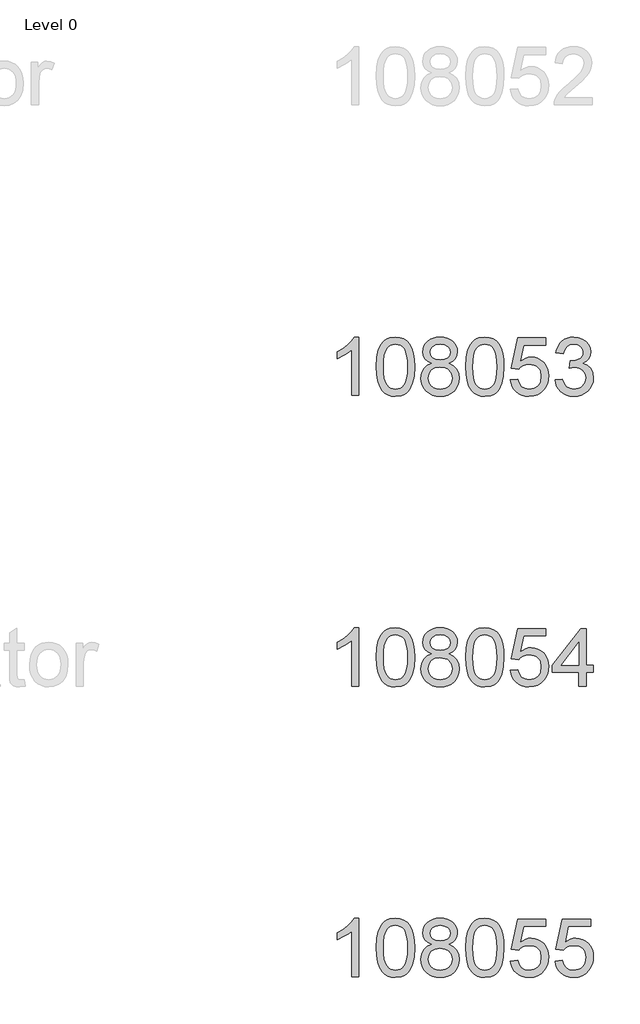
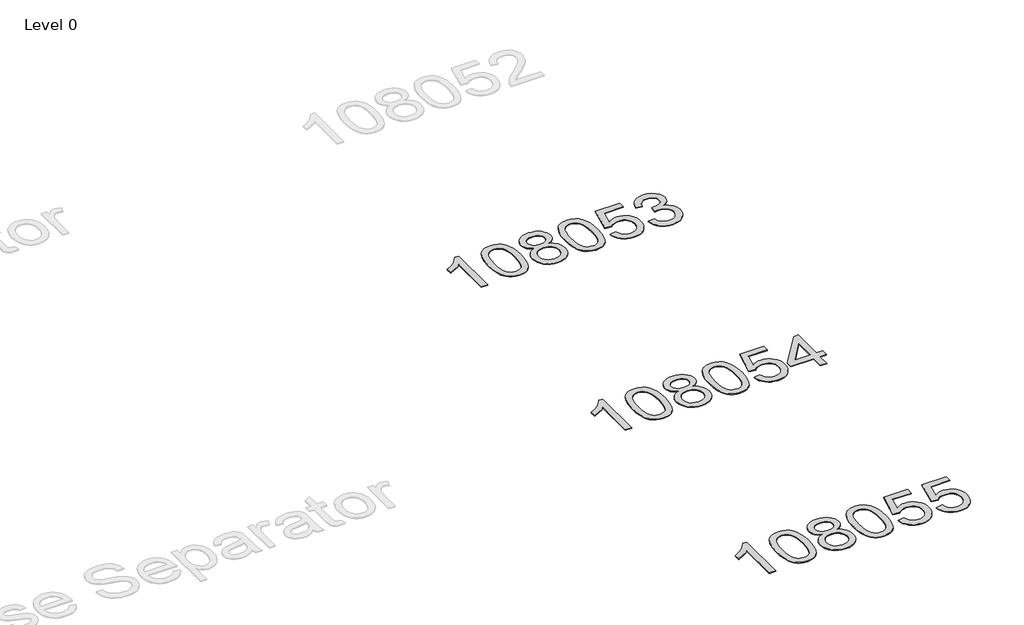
# One storey, part 3 of 15: 3 proxies.
"""IFC4 building model written with IfcOpenShell, lengths in millimetres."""

from ifc_helpers import new_model, si_unit, origin, origin_with_axes, place, context, project, spatial, polyline, outline, extrude, element, save

model = new_model("IFC4")

# Units and contexts
model_context = context("Model", 3, world=origin())
ifc_project = project(units=[si_unit("LENGTHUNIT", "METRE", prefix="MILLI")], contexts=[model_context])

# Site, building, storey
site = spatial("IfcSite", under=ifc_project)
building = spatial("IfcBuilding", under=site)
storey = spatial("IfcBuildingStorey", under=building, Name="Level 0", Elevation=0.0)

# Proxies
placement = place(None, origin())
element("IfcBuildingElementProxy", 1, Name="400mm Arial", ObjectType="400mm Arial", at=placement, inside=storey, context=model_context, shape_type="SweptSolid", body=[
    extrude(outline(polyline([(-3629.592891, 4149.0232018), (-3679.821046, 4149.0232018), (-3679.821046, 4462.1643561), (-3700.7903198, 4445.2049961), (-3727.4004508, 4428.2701616), (-3780.2773562, 4402.9108294), (-3780.2773562, 4450.3921323), (-3740.8281436, 4471.8519153), (-3706.6519062, 4497.3829258), (-3679.7106814, 4524.532617), (-3661.9665065, 4550.8484424), (-3629.592891, 4550.8484424), (-3629.592891, 4149.0232018)])), origin_with_axes(), (0.0, 0.0, 1.0), 5.0),
    extrude(outline(polyline([(-3510.3010227, 4346.6984606), (-3506.60994, 4411.0164961), (-3495.5366919, 4462.3115089), (-3477.1916431, 4501.3683141), (-3465.3335801, 4516.6016944), (-3451.6851581, 4528.9717264), (-3436.2003918, 4538.5427897), (-3418.8332959, 4545.3792634), (-3378.4521156, 4550.8484424), (-3347.5009771, 4547.6110809), (-3319.7872001, 4537.8989962), (-3296.6106344, 4522.0923331), (-3279.2711297, 4500.5712364), (-3266.1745307, 4473.519647), (-3255.726682, 4441.121506), (-3248.8840769, 4399.9800362), (-3246.6032085, 4346.6984606), (-3250.257503, 4282.7483071), (-3261.2203865, 4231.5759215), (-3279.4550707, 4192.4823282), (-3291.2855425, 4177.2029627), (-3304.9247675, 4164.7685512), (-3320.4279279, 4155.1331086), (-3337.8502061, 4148.2506496), (-3378.4521156, 4142.7446824), (-3406.1168416, 4145.1359154), (-3430.642308, 4152.3096143), (-3452.0285146, 4164.2657792), (-3470.2754616, 4181.0044099), (-3487.7866446, 4211.262704), (-3500.2946324, 4248.9644772), (-3507.7994251, 4294.1097294), (-3510.3010227, 4346.6984606)]), holes=[polyline([(-3460.0728676, 4346.7965624), (-3458.6013396, 4303.1320353), (-3454.1867557, 4267.7877726), (-3446.8291158, 4240.7637744), (-3436.5284199, 4222.0600406), (-3424.069483, 4209.3343892), (-3410.23712, 4200.2446383), (-3395.0313308, 4194.7907877), (-3378.4521156, 4192.9728375), (-3361.8729003, 4194.7969191), (-3346.6671112, 4200.2691637), (-3332.8347482, 4209.3895715), (-3320.3758113, 4222.1581425), (-3310.0751154, 4240.8925331), (-3302.7174755, 4267.9103999), (-3298.3028916, 4303.2117431), (-3296.8313636, 4346.7965624), (-3298.2538406, 4389.305327), (-3302.5212718, 4424.0272559), (-3309.633657, 4450.9623494), (-3319.5909964, 4470.1106072), (-3331.8414668, 4483.4585923), (-3345.8332454, 4492.9928673), (-3361.566332, 4498.7134323), (-3379.0407268, 4500.6202873), (-3395.5341029, 4498.9402929), (-3410.4823746, 4493.9003096), (-3423.885542, 4485.5003373), (-3435.743605, 4473.7403762), (-3446.3876574, 4452.8937298), (-3453.9905519, 4424.7875454), (-3458.5522887, 4389.4218229), (-3460.0728676, 4346.7965624)])]), origin_with_axes(), (0.0, 0.0, 1.0), 5.0),
    extrude(outline(polyline([(-3129.4695813, 4370.3410101), (-3156.3617551, 4383.5847619), (-3175.2341015, 4401.5374033), (-3186.3809259, 4423.8310522), (-3190.0965341, 4450.0978267), (-3188.0731831, 4470.5827224), (-3182.0031302, 4489.3630983), (-3171.8863753, 4506.4389542), (-3157.7229185, 4521.8102903), (-3140.1933414, 4534.5144818), (-3119.9782258, 4543.5889044), (-3097.0775716, 4549.0335579), (-3071.4913788, 4550.8484424), (-3045.7825587, 4548.9906383), (-3022.7102263, 4543.4172261), (-3002.2743814, 4534.1282057), (-2984.4750242, 4521.1235772), (-2970.05405, 4505.4518042), (-2959.7533542, 4488.1613504), (-2953.5729366, 4469.2522159), (-2951.5127975, 4448.7244006), (-2955.1793547, 4423.3037547), (-2966.1790263, 4401.3902505), (-2984.6344398, 4383.5479737), (-3010.6682223, 4370.3410101), (-2979.753872, 4354.4117197), (-2957.2517566, 4330.9531112), (-2943.5297582, 4301.0933559), (-2938.9557587, 4265.9606254), (-2941.2243643, 4240.9078615), (-2948.0301812, 4217.9397623), (-2959.3732094, 4197.0563277), (-2975.2534489, 4178.2575577), (-2994.8370338, 4162.7206748), (-3017.2900982, 4151.6229013), (-3042.6126422, 4144.9642371), (-3070.8046658, 4142.7446824), (-3098.9966893, 4144.9734342), (-3124.3192333, 4151.6596895), (-3146.7722978, 4162.8034482), (-3166.3558826, 4178.4047105), (-3182.2361221, 4197.3353048), (-3193.5791503, 4218.4670598), (-3200.3849672, 4241.7999753), (-3202.6535728, 4267.3340515), (-3197.8956324, 4303.8279454), (-3183.621811, 4333.8471162), (-3160.5678726, 4356.3614943), (-3129.4695813, 4370.3410101)]), holes=[polyline([(-3139.868379, 4448.6262987), (-3135.4170068, 4426.7005318), (-3122.0628904, 4409.1893488), (-3100.1984372, 4397.7114306), (-3070.2160546, 4393.8854578), (-3040.9326478, 4397.6869051), (-3019.3992883, 4409.0912469), (-3006.1555365, 4426.0138187), (-3001.7409525, 4446.3699558), (-3006.3026893, 4467.498645), (-3019.9878995, 4484.9730398), (-3041.8155645, 4496.7084755), (-3070.8046658, 4500.6202873), (-3099.977708, 4496.7943146), (-3121.7685848, 4485.3163963), (-3135.3434305, 4468.4919264), (-3139.868379, 4448.6262987)]), polyline([(-3152.4254178, 4269.099885), (-3150.3284904, 4249.8841822), (-3144.0377083, 4231.2816159), (-3132.4249, 4215.05802), (-3114.361894, 4202.9792278), (-3092.7304327, 4195.4744351), (-3070.4122583, 4192.9728375), (-3036.2237582, 4198.23355), (-3022.3300815, 4204.8094407), (-3010.5701204, 4214.0156876), (-2994.5304654, 4237.9157546), (-2989.1839138, 4267.5302552), (-2994.7021437, 4297.6475279), (-3011.2568335, 4322.0748924), (-3023.3356257, 4331.5171969), (-3037.4990825, 4338.2617001), (-3072.07999, 4343.6573027), (-3105.7902435, 4338.3352765), (-3119.5275703, 4331.6827438), (-3131.1863639, 4322.3691979), (-3147.1156543, 4298.4078173), (-3152.4254178, 4269.099885)])]), origin_with_axes(), (0.0, 0.0, 1.0), 5.0),
    extrude(outline(polyline([(-2895.006123, 4346.6984606), (-2891.3150403, 4411.0164961), (-2880.2417923, 4462.3115089), (-2861.8967434, 4501.3683141), (-2850.0386805, 4516.6016944), (-2836.3902584, 4528.9717264), (-2820.9054921, 4538.5427897), (-2803.5383963, 4545.3792634), (-2763.1572159, 4550.8484424), (-2732.2060774, 4547.6110809), (-2704.4923004, 4537.8989962), (-2681.3157347, 4522.0923331), (-2663.97623, 4500.5712364), (-2650.879631, 4473.519647), (-2640.4317823, 4441.121506), (-2633.5891772, 4399.9800362), (-2631.3083089, 4346.6984606), (-2634.9626033, 4282.7483071), (-2645.9254868, 4231.5759215), (-2664.160171, 4192.4823282), (-2675.9906429, 4177.2029627), (-2689.6298678, 4164.7685512), (-2705.1330282, 4155.1331086), (-2722.5553064, 4148.2506496), (-2763.1572159, 4142.7446824), (-2790.821942, 4145.1359154), (-2815.3474083, 4152.3096143), (-2836.733615, 4164.2657792), (-2854.9805619, 4181.0044099), (-2872.4917449, 4211.262704), (-2884.9997327, 4248.9644772), (-2892.5045254, 4294.1097294), (-2895.006123, 4346.6984606)]), holes=[polyline([(-2844.7779679, 4346.7965624), (-2843.3064399, 4303.1320353), (-2838.891856, 4267.7877726), (-2831.5342161, 4240.7637744), (-2821.2335202, 4222.0600406), (-2808.7745833, 4209.3343892), (-2794.9422203, 4200.2446383), (-2779.7364312, 4194.7907877), (-2763.1572159, 4192.9728375), (-2746.5780007, 4194.7969191), (-2731.3722115, 4200.2691637), (-2717.5398485, 4209.3895715), (-2705.0809116, 4222.1581425), (-2694.7802158, 4240.8925331), (-2687.4225759, 4267.9103999), (-2683.0079919, 4303.2117431), (-2681.5364639, 4346.7965624), (-2682.958941, 4389.305327), (-2687.2263721, 4424.0272559), (-2694.3387574, 4450.9623494), (-2704.2960967, 4470.1106072), (-2716.5465671, 4483.4585923), (-2730.5383457, 4492.9928673), (-2746.2714324, 4498.7134323), (-2763.7458271, 4500.6202873), (-2780.2392032, 4498.9402929), (-2795.187475, 4493.9003096), (-2808.5906423, 4485.5003373), (-2820.4487053, 4473.7403762), (-2831.0927577, 4452.8937298), (-2838.6956523, 4424.7875454), (-2843.257389, 4389.4218229), (-2844.7779679, 4346.7965624)])]), origin_with_axes(), (0.0, 0.0, 1.0), 5.0),
    extrude(outline(polyline([(-2587.3586732, 4255.7580314), (-2537.1305181, 4262.0365507), (-2527.9089427, 4231.8824899), (-2511.8202368, 4210.2878168), (-2488.9379767, 4197.3015823), (-2459.3357388, 4192.9728375), (-2440.2058751, 4194.478088), (-2423.3323543, 4198.9938395), (-2408.7151763, 4206.520092), (-2396.3543413, 4217.0568455), (-2386.5257606, 4230.0829338), (-2379.5053459, 4245.0771908), (-2373.8890141, 4280.9702108), (-2379.1497266, 4314.7663034), (-2385.7256173, 4328.6845055), (-2394.9318642, 4340.6161449), (-2406.7991243, 4350.1872082), (-2421.3580542, 4357.0236819), (-2458.5509239, 4362.4928609), (-2482.9169747, 4360.3100944), (-2502.6477124, 4353.7617949), (-2518.4053245, 4343.7308791), (-2530.8519987, 4331.100264), (-2581.0801538, 4337.3787834), (-2537.1305181, 4544.569923), (-2342.4964172, 4544.569923), (-2342.4964172, 4494.341768), (-2496.5163458, 4494.341768), (-2518.0006543, 4383.6828638), (-2500.2748735, 4396.3870554), (-2482.1198971, 4405.4614779), (-2463.535725, 4410.9061315), (-2444.5223572, 4412.721016), (-2420.0612702, 4410.4708044), (-2397.5928773, 4403.7201698), (-2377.1171786, 4392.4691121), (-2358.634174, 4376.7176314), (-2343.3333487, 4357.4283521), (-2332.4041878, 4335.5638988), (-2325.8466912, 4311.1242716), (-2323.660859, 4284.1094705), (-2325.6290277, 4258.0879507), (-2331.5335337, 4233.8813154), (-2341.3743771, 4211.4895646), (-2355.1515578, 4190.9126983), (-2376.0227297, 4169.8391914), (-2400.3765178, 4154.7866864), (-2428.2129221, 4145.7551834), (-2459.5319426, 4142.7446824), (-2485.4522948, 4144.6791286), (-2508.8649181, 4150.4824671), (-2529.7698125, 4160.1546979), (-2548.1669779, 4173.695821), (-2563.4739346, 4190.4313861), (-2575.1082027, 4209.6869428), (-2583.0697822, 4231.4624913), (-2587.3586732, 4255.7580314)])), origin_with_axes(), (0.0, 0.0, 1.0), 5.0),
    extrude(outline(polyline([(-2279.7112233, 4255.7580314), (-2229.4830683, 4262.0365507), (-2218.2381419, 4230.4722756), (-2201.7692913, 4209.1596453), (-2179.2671759, 4197.0195395), (-2149.9224554, 4192.9728375), (-2115.4887007, 4198.5401184), (-2101.2148793, 4205.4992194), (-2088.9030952, 4215.241961), (-2071.906947, 4240.1598348), (-2066.2415643, 4270.3752093), (-2071.8578961, 4299.0577422), (-2088.7068914, 4322.320147), (-2114.2133764, 4337.7344026), (-2145.8021771, 4342.8724878), (-2181.0207468, 4337.3787834), (-2175.4289404, 4387.6069384), (-2167.3845875, 4387.0183272), (-2137.2918403, 4390.6235708), (-2110.3874037, 4401.4393014), (-2099.3141556, 4409.6185445), (-2091.4046927, 4419.7352993), (-2086.659015, 4431.789566), (-2085.0771224, 4445.7813446), (-2089.6633846, 4467.4741196), (-2103.4221712, 4485.0711417), (-2124.4159704, 4496.7330009), (-2150.7072704, 4500.6202873), (-2177.0476212, 4496.6962127), (-2198.5809807, 4484.9239889), (-2214.3018046, 4465.3036158), (-2223.2045489, 4437.8350935), (-2273.432704, 4444.1136129), (-2267.479147, 4468.0933876), (-2258.6438477, 4489.2159455), (-2246.9268062, 4507.4812866), (-2232.3280224, 4522.8894108), (-2215.3073487, 4535.1214871), (-2196.3246378, 4543.8586845), (-2175.3798895, 4549.1010029), (-2152.4731039, 4550.8484424), (-2120.896566, 4547.4026144), (-2091.8952021, 4537.0651303), (-2067.4433121, 4520.7556952), (-2049.5151962, 4499.394014), (-2038.5155246, 4474.7827086), (-2034.8489673, 4448.7244006), (-2038.3315836, 4424.4441889), (-2048.7794322, 4402.4203201), (-2066.0453605, 4383.6583383), (-2089.9822157, 4369.1637877), (-2058.5405678, 4356.4595962), (-2035.2413748, 4334.8281349), (-2020.8204006, 4305.4466262), (-2016.0134092, 4269.4922925), (-2018.4169049, 4244.010333), (-2025.627392, 4220.5394617), (-2037.6448705, 4199.0796786), (-2054.4693404, 4179.6309838), (-2074.9664989, 4163.493227), (-2098.0020432, 4151.9662578), (-2123.5759732, 4145.0500763), (-2151.688289, 4142.7446824), (-2177.0966721, 4144.7128511), (-2200.2487124, 4150.6173571), (-2221.1444097, 4160.4582005), (-2239.7837641, 4174.2353812), (-2255.4126176, 4191.1395589), (-2267.2768119, 4210.3613932), (-2275.3763472, 4231.900884), (-2279.7112233, 4255.7580314)])), origin_with_axes(), (0.0, 0.0, 1.0), 5.0),
])
element("IfcBuildingElementProxy", 2, Name="400mm Arial", ObjectType="400mm Arial", at=placement, inside=storey, context=model_context, shape_type="SweptSolid", body=[
    extrude(outline(polyline([(-3629.592891, 2149.0232018), (-3679.821046, 2149.0232018), (-3679.821046, 2462.1643561), (-3700.7903198, 2445.2049961), (-3727.4004508, 2428.2701616), (-3780.2773562, 2402.9108294), (-3780.2773562, 2450.3921323), (-3740.8281436, 2471.8519153), (-3706.6519062, 2497.3829258), (-3679.7106814, 2524.532617), (-3661.9665065, 2550.8484424), (-3629.592891, 2550.8484424), (-3629.592891, 2149.0232018)])), origin_with_axes(), (0.0, 0.0, 1.0), 5.0),
    extrude(outline(polyline([(-3510.3010227, 2346.6984606), (-3506.60994, 2411.0164961), (-3495.5366919, 2462.3115089), (-3477.1916431, 2501.3683141), (-3465.3335801, 2516.6016944), (-3451.6851581, 2528.9717264), (-3436.2003918, 2538.5427897), (-3418.8332959, 2545.3792634), (-3378.4521156, 2550.8484424), (-3347.5009771, 2547.6110809), (-3319.7872001, 2537.8989962), (-3296.6106344, 2522.0923331), (-3279.2711297, 2500.5712364), (-3266.1745307, 2473.519647), (-3255.726682, 2441.121506), (-3248.8840769, 2399.9800362), (-3246.6032085, 2346.6984606), (-3250.257503, 2282.7483071), (-3261.2203865, 2231.5759215), (-3279.4550707, 2192.4823282), (-3291.2855425, 2177.2029627), (-3304.9247675, 2164.7685512), (-3320.4279279, 2155.1331086), (-3337.8502061, 2148.2506496), (-3378.4521156, 2142.7446824), (-3406.1168416, 2145.1359154), (-3430.642308, 2152.3096143), (-3452.0285146, 2164.2657792), (-3470.2754616, 2181.0044099), (-3487.7866446, 2211.262704), (-3500.2946324, 2248.9644772), (-3507.7994251, 2294.1097294), (-3510.3010227, 2346.6984606)]), holes=[polyline([(-3460.0728676, 2346.7965624), (-3458.6013396, 2303.1320353), (-3454.1867557, 2267.7877726), (-3446.8291158, 2240.7637744), (-3436.5284199, 2222.0600406), (-3424.069483, 2209.3343892), (-3410.23712, 2200.2446383), (-3395.0313308, 2194.7907877), (-3378.4521156, 2192.9728375), (-3361.8729003, 2194.7969191), (-3346.6671112, 2200.2691637), (-3332.8347482, 2209.3895715), (-3320.3758113, 2222.1581425), (-3310.0751154, 2240.8925331), (-3302.7174755, 2267.9103999), (-3298.3028916, 2303.2117431), (-3296.8313636, 2346.7965624), (-3298.2538406, 2389.305327), (-3302.5212718, 2424.0272559), (-3309.633657, 2450.9623494), (-3319.5909964, 2470.1106072), (-3331.8414668, 2483.4585923), (-3345.8332454, 2492.9928673), (-3361.566332, 2498.7134323), (-3379.0407268, 2500.6202873), (-3395.5341029, 2498.9402929), (-3410.4823746, 2493.9003096), (-3423.885542, 2485.5003373), (-3435.743605, 2473.7403762), (-3446.3876574, 2452.8937298), (-3453.9905519, 2424.7875454), (-3458.5522887, 2389.4218229), (-3460.0728676, 2346.7965624)])]), origin_with_axes(), (0.0, 0.0, 1.0), 5.0),
    extrude(outline(polyline([(-3129.4695813, 2370.3410101), (-3156.3617551, 2383.5847619), (-3175.2341015, 2401.5374033), (-3186.3809259, 2423.8310522), (-3190.0965341, 2450.0978267), (-3188.0731831, 2470.5827224), (-3182.0031302, 2489.3630983), (-3171.8863753, 2506.4389542), (-3157.7229185, 2521.8102903), (-3140.1933414, 2534.5144818), (-3119.9782258, 2543.5889044), (-3097.0775716, 2549.0335579), (-3071.4913788, 2550.8484424), (-3045.7825587, 2548.9906383), (-3022.7102263, 2543.4172261), (-3002.2743814, 2534.1282057), (-2984.4750242, 2521.1235772), (-2970.05405, 2505.4518042), (-2959.7533542, 2488.1613504), (-2953.5729366, 2469.2522159), (-2951.5127975, 2448.7244006), (-2955.1793547, 2423.3037547), (-2966.1790263, 2401.3902505), (-2984.6344398, 2383.5479737), (-3010.6682223, 2370.3410101), (-2979.753872, 2354.4117197), (-2957.2517566, 2330.9531112), (-2943.5297582, 2301.0933559), (-2938.9557587, 2265.9606254), (-2941.2243643, 2240.9078615), (-2948.0301812, 2217.9397623), (-2959.3732094, 2197.0563277), (-2975.2534489, 2178.2575577), (-2994.8370338, 2162.7206748), (-3017.2900982, 2151.6229013), (-3042.6126422, 2144.9642371), (-3070.8046658, 2142.7446824), (-3098.9966893, 2144.9734342), (-3124.3192333, 2151.6596895), (-3146.7722978, 2162.8034482), (-3166.3558826, 2178.4047105), (-3182.2361221, 2197.3353048), (-3193.5791503, 2218.4670598), (-3200.3849672, 2241.7999753), (-3202.6535728, 2267.3340515), (-3197.8956324, 2303.8279454), (-3183.621811, 2333.8471162), (-3160.5678726, 2356.3614943), (-3129.4695813, 2370.3410101)]), holes=[polyline([(-3139.868379, 2448.6262987), (-3135.4170068, 2426.7005318), (-3122.0628904, 2409.1893488), (-3100.1984372, 2397.7114306), (-3070.2160546, 2393.8854578), (-3040.9326478, 2397.6869051), (-3019.3992883, 2409.0912469), (-3006.1555365, 2426.0138187), (-3001.7409525, 2446.3699558), (-3006.3026893, 2467.498645), (-3019.9878995, 2484.9730398), (-3041.8155645, 2496.7084755), (-3070.8046658, 2500.6202873), (-3099.977708, 2496.7943146), (-3121.7685848, 2485.3163963), (-3135.3434305, 2468.4919264), (-3139.868379, 2448.6262987)]), polyline([(-3152.4254178, 2269.099885), (-3150.3284904, 2249.8841822), (-3144.0377083, 2231.2816159), (-3132.4249, 2215.05802), (-3114.361894, 2202.9792278), (-3092.7304327, 2195.4744351), (-3070.4122583, 2192.9728375), (-3036.2237582, 2198.23355), (-3022.3300815, 2204.8094407), (-3010.5701204, 2214.0156876), (-2994.5304654, 2237.9157546), (-2989.1839138, 2267.5302552), (-2994.7021437, 2297.6475279), (-3011.2568335, 2322.0748924), (-3023.3356257, 2331.5171969), (-3037.4990825, 2338.2617001), (-3072.07999, 2343.6573027), (-3105.7902435, 2338.3352765), (-3119.5275703, 2331.6827438), (-3131.1863639, 2322.3691979), (-3147.1156543, 2298.4078173), (-3152.4254178, 2269.099885)])]), origin_with_axes(), (0.0, 0.0, 1.0), 5.0),
    extrude(outline(polyline([(-2895.006123, 2346.6984606), (-2891.3150403, 2411.0164961), (-2880.2417923, 2462.3115089), (-2861.8967434, 2501.3683141), (-2850.0386805, 2516.6016944), (-2836.3902584, 2528.9717264), (-2820.9054921, 2538.5427897), (-2803.5383963, 2545.3792634), (-2763.1572159, 2550.8484424), (-2732.2060774, 2547.6110809), (-2704.4923004, 2537.8989962), (-2681.3157347, 2522.0923331), (-2663.97623, 2500.5712364), (-2650.879631, 2473.519647), (-2640.4317823, 2441.121506), (-2633.5891772, 2399.9800362), (-2631.3083089, 2346.6984606), (-2634.9626033, 2282.7483071), (-2645.9254868, 2231.5759215), (-2664.160171, 2192.4823282), (-2675.9906429, 2177.2029627), (-2689.6298678, 2164.7685512), (-2705.1330282, 2155.1331086), (-2722.5553064, 2148.2506496), (-2763.1572159, 2142.7446824), (-2790.821942, 2145.1359154), (-2815.3474083, 2152.3096143), (-2836.733615, 2164.2657792), (-2854.9805619, 2181.0044099), (-2872.4917449, 2211.262704), (-2884.9997327, 2248.9644772), (-2892.5045254, 2294.1097294), (-2895.006123, 2346.6984606)]), holes=[polyline([(-2844.7779679, 2346.7965624), (-2843.3064399, 2303.1320353), (-2838.891856, 2267.7877726), (-2831.5342161, 2240.7637744), (-2821.2335202, 2222.0600406), (-2808.7745833, 2209.3343892), (-2794.9422203, 2200.2446383), (-2779.7364312, 2194.7907877), (-2763.1572159, 2192.9728375), (-2746.5780007, 2194.7969191), (-2731.3722115, 2200.2691637), (-2717.5398485, 2209.3895715), (-2705.0809116, 2222.1581425), (-2694.7802158, 2240.8925331), (-2687.4225759, 2267.9103999), (-2683.0079919, 2303.2117431), (-2681.5364639, 2346.7965624), (-2682.958941, 2389.305327), (-2687.2263721, 2424.0272559), (-2694.3387574, 2450.9623494), (-2704.2960967, 2470.1106072), (-2716.5465671, 2483.4585923), (-2730.5383457, 2492.9928673), (-2746.2714324, 2498.7134323), (-2763.7458271, 2500.6202873), (-2780.2392032, 2498.9402929), (-2795.187475, 2493.9003096), (-2808.5906423, 2485.5003373), (-2820.4487053, 2473.7403762), (-2831.0927577, 2452.8937298), (-2838.6956523, 2424.7875454), (-2843.257389, 2389.4218229), (-2844.7779679, 2346.7965624)])]), origin_with_axes(), (0.0, 0.0, 1.0), 5.0),
    extrude(outline(polyline([(-2587.3586732, 2255.7580314), (-2537.1305181, 2262.0365507), (-2527.9089427, 2231.8824899), (-2511.8202368, 2210.2878168), (-2488.9379767, 2197.3015823), (-2459.3357388, 2192.9728375), (-2440.2058751, 2194.478088), (-2423.3323543, 2198.9938395), (-2408.7151763, 2206.520092), (-2396.3543413, 2217.0568455), (-2386.5257606, 2230.0829338), (-2379.5053459, 2245.0771908), (-2373.8890141, 2280.9702108), (-2379.1497266, 2314.7663034), (-2385.7256173, 2328.6845055), (-2394.9318642, 2340.6161449), (-2406.7991243, 2350.1872082), (-2421.3580542, 2357.0236819), (-2458.5509239, 2362.4928609), (-2482.9169747, 2360.3100944), (-2502.6477124, 2353.7617949), (-2518.4053245, 2343.7308791), (-2530.8519987, 2331.100264), (-2581.0801538, 2337.3787834), (-2537.1305181, 2544.569923), (-2342.4964172, 2544.569923), (-2342.4964172, 2494.341768), (-2496.5163458, 2494.341768), (-2518.0006543, 2383.6828638), (-2500.2748735, 2396.3870554), (-2482.1198971, 2405.4614779), (-2463.535725, 2410.9061315), (-2444.5223572, 2412.721016), (-2420.0612702, 2410.4708044), (-2397.5928773, 2403.7201698), (-2377.1171786, 2392.4691121), (-2358.634174, 2376.7176314), (-2343.3333487, 2357.4283521), (-2332.4041878, 2335.5638988), (-2325.8466912, 2311.1242716), (-2323.660859, 2284.1094705), (-2325.6290277, 2258.0879507), (-2331.5335337, 2233.8813154), (-2341.3743771, 2211.4895646), (-2355.1515578, 2190.9126983), (-2376.0227297, 2169.8391914), (-2400.3765178, 2154.7866864), (-2428.2129221, 2145.7551834), (-2459.5319426, 2142.7446824), (-2485.4522948, 2144.6791286), (-2508.8649181, 2150.4824671), (-2529.7698125, 2160.1546979), (-2548.1669779, 2173.695821), (-2563.4739346, 2190.4313861), (-2575.1082027, 2209.6869428), (-2583.0697822, 2231.4624913), (-2587.3586732, 2255.7580314)])), origin_with_axes(), (0.0, 0.0, 1.0), 5.0),
    extrude(outline(polyline([(-2116.4697193, 2149.0232018), (-2116.4697193, 2243.2009926), (-2298.5467815, 2243.2009926), (-2298.5467815, 2293.4291477), (-2103.9126806, 2544.569923), (-2066.2415643, 2544.569923), (-2066.2415643, 2293.4291477), (-2016.0134092, 2293.4291477), (-2016.0134092, 2243.2009926), (-2066.2415643, 2243.2009926), (-2066.2415643, 2149.0232018), (-2116.4697193, 2149.0232018)]), holes=[polyline([(-2116.4697193, 2293.4291477), (-2116.4697193, 2448.6262987), (-2236.7426063, 2293.4291477), (-2116.4697193, 2293.4291477)])]), origin_with_axes(), (0.0, 0.0, 1.0), 5.0),
])
element("IfcBuildingElementProxy", 3, Name="400mm Arial", ObjectType="400mm Arial", at=placement, inside=storey, context=model_context, shape_type="SweptSolid", body=[
    extrude(outline(polyline([(-3629.592891, 149.0232018), (-3679.821046, 149.0232018), (-3679.821046, 462.1643561), (-3700.7903198, 445.2049961), (-3727.4004508, 428.2701616), (-3780.2773562, 402.9108294), (-3780.2773562, 450.3921323), (-3740.8281436, 471.8519153), (-3706.6519062, 497.3829258), (-3679.7106814, 524.532617), (-3661.9665065, 550.8484424), (-3629.592891, 550.8484424), (-3629.592891, 149.0232018)])), origin_with_axes(), (0.0, 0.0, 1.0), 5.0),
    extrude(outline(polyline([(-3510.3010227, 346.6984606), (-3506.60994, 411.0164961), (-3495.5366919, 462.3115089), (-3477.1916431, 501.3683141), (-3465.3335801, 516.6016944), (-3451.6851581, 528.9717264), (-3436.2003918, 538.5427897), (-3418.8332959, 545.3792634), (-3378.4521156, 550.8484424), (-3347.5009771, 547.6110809), (-3319.7872001, 537.8989962), (-3296.6106344, 522.0923331), (-3279.2711297, 500.5712364), (-3266.1745307, 473.519647), (-3255.726682, 441.121506), (-3248.8840769, 399.9800362), (-3246.6032085, 346.6984606), (-3250.257503, 282.7483071), (-3261.2203865, 231.5759215), (-3279.4550707, 192.4823282), (-3291.2855425, 177.2029627), (-3304.9247675, 164.7685512), (-3320.4279279, 155.1331086), (-3337.8502061, 148.2506496), (-3378.4521156, 142.7446824), (-3406.1168416, 145.1359154), (-3430.642308, 152.3096143), (-3452.0285146, 164.2657792), (-3470.2754616, 181.0044099), (-3487.7866446, 211.262704), (-3500.2946324, 248.9644772), (-3507.7994251, 294.1097294), (-3510.3010227, 346.6984606)]), holes=[polyline([(-3460.0728676, 346.7965624), (-3458.6013396, 303.1320353), (-3454.1867557, 267.7877726), (-3446.8291158, 240.7637744), (-3436.5284199, 222.0600406), (-3424.069483, 209.3343892), (-3410.23712, 200.2446383), (-3395.0313308, 194.7907877), (-3378.4521156, 192.9728375), (-3361.8729003, 194.7969191), (-3346.6671112, 200.2691637), (-3332.8347482, 209.3895715), (-3320.3758113, 222.1581425), (-3310.0751154, 240.8925331), (-3302.7174755, 267.9103999), (-3298.3028916, 303.2117431), (-3296.8313636, 346.7965624), (-3298.2538406, 389.305327), (-3302.5212718, 424.0272559), (-3309.633657, 450.9623494), (-3319.5909964, 470.1106072), (-3331.8414668, 483.4585923), (-3345.8332454, 492.9928673), (-3361.566332, 498.7134323), (-3379.0407268, 500.6202873), (-3395.5341029, 498.9402929), (-3410.4823746, 493.9003096), (-3423.885542, 485.5003373), (-3435.743605, 473.7403762), (-3446.3876574, 452.8937298), (-3453.9905519, 424.7875454), (-3458.5522887, 389.4218229), (-3460.0728676, 346.7965624)])]), origin_with_axes(), (0.0, 0.0, 1.0), 5.0),
    extrude(outline(polyline([(-3129.4695813, 370.3410101), (-3156.3617551, 383.5847619), (-3175.2341015, 401.5374033), (-3186.3809259, 423.8310522), (-3190.0965341, 450.0978267), (-3188.0731831, 470.5827224), (-3182.0031302, 489.3630983), (-3171.8863753, 506.4389542), (-3157.7229185, 521.8102903), (-3140.1933414, 534.5144818), (-3119.9782258, 543.5889044), (-3097.0775716, 549.0335579), (-3071.4913788, 550.8484424), (-3045.7825587, 548.9906383), (-3022.7102263, 543.4172261), (-3002.2743814, 534.1282057), (-2984.4750242, 521.1235772), (-2970.05405, 505.4518042), (-2959.7533542, 488.1613504), (-2953.5729366, 469.2522159), (-2951.5127975, 448.7244006), (-2955.1793547, 423.3037547), (-2966.1790263, 401.3902505), (-2984.6344398, 383.5479737), (-3010.6682223, 370.3410101), (-2979.753872, 354.4117197), (-2957.2517566, 330.9531112), (-2943.5297582, 301.0933559), (-2938.9557587, 265.9606254), (-2941.2243643, 240.9078615), (-2948.0301812, 217.9397623), (-2959.3732094, 197.0563277), (-2975.2534489, 178.2575577), (-2994.8370338, 162.7206748), (-3017.2900982, 151.6229013), (-3042.6126422, 144.9642371), (-3070.8046658, 142.7446824), (-3098.9966893, 144.9734342), (-3124.3192333, 151.6596895), (-3146.7722978, 162.8034482), (-3166.3558826, 178.4047105), (-3182.2361221, 197.3353048), (-3193.5791503, 218.4670598), (-3200.3849672, 241.7999753), (-3202.6535728, 267.3340515), (-3197.8956324, 303.8279454), (-3183.621811, 333.8471162), (-3160.5678726, 356.3614943), (-3129.4695813, 370.3410101)]), holes=[polyline([(-3139.868379, 448.6262987), (-3135.4170068, 426.7005318), (-3122.0628904, 409.1893488), (-3100.1984372, 397.7114306), (-3070.2160546, 393.8854578), (-3040.9326478, 397.6869051), (-3019.3992883, 409.0912469), (-3006.1555365, 426.0138187), (-3001.7409525, 446.3699558), (-3006.3026893, 467.498645), (-3019.9878995, 484.9730398), (-3041.8155645, 496.7084755), (-3070.8046658, 500.6202873), (-3099.977708, 496.7943146), (-3121.7685848, 485.3163963), (-3135.3434305, 468.4919264), (-3139.868379, 448.6262987)]), polyline([(-3152.4254178, 269.099885), (-3150.3284904, 249.8841822), (-3144.0377083, 231.2816159), (-3132.4249, 215.05802), (-3114.361894, 202.9792278), (-3092.7304327, 195.4744351), (-3070.4122583, 192.9728375), (-3036.2237582, 198.23355), (-3022.3300815, 204.8094407), (-3010.5701204, 214.0156876), (-2994.5304654, 237.9157546), (-2989.1839138, 267.5302552), (-2994.7021437, 297.6475279), (-3011.2568335, 322.0748924), (-3023.3356257, 331.5171969), (-3037.4990825, 338.2617001), (-3072.07999, 343.6573027), (-3105.7902435, 338.3352765), (-3119.5275703, 331.6827438), (-3131.1863639, 322.3691979), (-3147.1156543, 298.4078173), (-3152.4254178, 269.099885)])]), origin_with_axes(), (0.0, 0.0, 1.0), 5.0),
    extrude(outline(polyline([(-2895.006123, 346.6984606), (-2891.3150403, 411.0164961), (-2880.2417923, 462.3115089), (-2861.8967434, 501.3683141), (-2850.0386805, 516.6016944), (-2836.3902584, 528.9717264), (-2820.9054921, 538.5427897), (-2803.5383963, 545.3792634), (-2763.1572159, 550.8484424), (-2732.2060774, 547.6110809), (-2704.4923004, 537.8989962), (-2681.3157347, 522.0923331), (-2663.97623, 500.5712364), (-2650.879631, 473.519647), (-2640.4317823, 441.121506), (-2633.5891772, 399.9800362), (-2631.3083089, 346.6984606), (-2634.9626033, 282.7483071), (-2645.9254868, 231.5759215), (-2664.160171, 192.4823282), (-2675.9906429, 177.2029627), (-2689.6298678, 164.7685512), (-2705.1330282, 155.1331086), (-2722.5553064, 148.2506496), (-2763.1572159, 142.7446824), (-2790.821942, 145.1359154), (-2815.3474083, 152.3096143), (-2836.733615, 164.2657792), (-2854.9805619, 181.0044099), (-2872.4917449, 211.262704), (-2884.9997327, 248.9644772), (-2892.5045254, 294.1097294), (-2895.006123, 346.6984606)]), holes=[polyline([(-2844.7779679, 346.7965624), (-2843.3064399, 303.1320353), (-2838.891856, 267.7877726), (-2831.5342161, 240.7637744), (-2821.2335202, 222.0600406), (-2808.7745833, 209.3343892), (-2794.9422203, 200.2446383), (-2779.7364312, 194.7907877), (-2763.1572159, 192.9728375), (-2746.5780007, 194.7969191), (-2731.3722115, 200.2691637), (-2717.5398485, 209.3895715), (-2705.0809116, 222.1581425), (-2694.7802158, 240.8925331), (-2687.4225759, 267.9103999), (-2683.0079919, 303.2117431), (-2681.5364639, 346.7965624), (-2682.958941, 389.305327), (-2687.2263721, 424.0272559), (-2694.3387574, 450.9623494), (-2704.2960967, 470.1106072), (-2716.5465671, 483.4585923), (-2730.5383457, 492.9928673), (-2746.2714324, 498.7134323), (-2763.7458271, 500.6202873), (-2780.2392032, 498.9402929), (-2795.187475, 493.9003096), (-2808.5906423, 485.5003373), (-2820.4487053, 473.7403762), (-2831.0927577, 452.8937298), (-2838.6956523, 424.7875454), (-2843.257389, 389.4218229), (-2844.7779679, 346.7965624)])]), origin_with_axes(), (0.0, 0.0, 1.0), 5.0),
    extrude(outline(polyline([(-2587.3586732, 255.7580314), (-2537.1305181, 262.0365507), (-2527.9089427, 231.8824899), (-2511.8202368, 210.2878168), (-2488.9379767, 197.3015823), (-2459.3357388, 192.9728375), (-2440.2058751, 194.478088), (-2423.3323543, 198.9938395), (-2408.7151763, 206.520092), (-2396.3543413, 217.0568455), (-2386.5257606, 230.0829338), (-2379.5053459, 245.0771908), (-2373.8890141, 280.9702108), (-2379.1497266, 314.7663034), (-2385.7256173, 328.6845055), (-2394.9318642, 340.6161449), (-2406.7991243, 350.1872082), (-2421.3580542, 357.0236819), (-2458.5509239, 362.4928609), (-2482.9169747, 360.3100944), (-2502.6477124, 353.7617949), (-2518.4053245, 343.7308791), (-2530.8519987, 331.100264), (-2581.0801538, 337.3787834), (-2537.1305181, 544.569923), (-2342.4964172, 544.569923), (-2342.4964172, 494.341768), (-2496.5163458, 494.341768), (-2518.0006543, 383.6828638), (-2500.2748735, 396.3870554), (-2482.1198971, 405.4614779), (-2463.535725, 410.9061315), (-2444.5223572, 412.721016), (-2420.0612702, 410.4708044), (-2397.5928773, 403.7201698), (-2377.1171786, 392.4691121), (-2358.634174, 376.7176314), (-2343.3333487, 357.4283521), (-2332.4041878, 335.5638988), (-2325.8466912, 311.1242716), (-2323.660859, 284.1094705), (-2325.6290277, 258.0879507), (-2331.5335337, 233.8813154), (-2341.3743771, 211.4895646), (-2355.1515578, 190.9126983), (-2376.0227297, 169.8391914), (-2400.3765178, 154.7866864), (-2428.2129221, 145.7551834), (-2459.5319426, 142.7446824), (-2485.4522948, 144.6791286), (-2508.8649181, 150.4824671), (-2529.7698125, 160.1546979), (-2548.1669779, 173.695821), (-2563.4739346, 190.4313861), (-2575.1082027, 209.6869428), (-2583.0697822, 231.4624913), (-2587.3586732, 255.7580314)])), origin_with_axes(), (0.0, 0.0, 1.0), 5.0),
    extrude(outline(polyline([(-2279.7112233, 255.7580314), (-2229.4830683, 262.0365507), (-2220.2614929, 231.8824899), (-2204.172787, 210.2878168), (-2181.2905269, 197.3015823), (-2151.688289, 192.9728375), (-2132.5584253, 194.478088), (-2115.6849044, 198.9938395), (-2101.0677265, 206.520092), (-2088.7068914, 217.0568455), (-2078.8783108, 230.0829338), (-2071.8578961, 245.0771908), (-2066.2415643, 280.9702108), (-2071.5022768, 314.7663034), (-2078.0781675, 328.6845055), (-2087.2844144, 340.6161449), (-2099.1516744, 350.1872082), (-2113.7106044, 357.0236819), (-2150.9034741, 362.4928609), (-2175.2695249, 360.3100944), (-2195.0002626, 353.7617949), (-2210.7578747, 343.7308791), (-2223.2045489, 331.100264), (-2273.432704, 337.3787834), (-2229.4830683, 544.569923), (-2034.8489673, 544.569923), (-2034.8489673, 494.341768), (-2188.868896, 494.341768), (-2210.3532045, 383.6828638), (-2192.6274237, 396.3870554), (-2174.4724472, 405.4614779), (-2155.8882751, 410.9061315), (-2136.8749073, 412.721016), (-2112.4138203, 410.4708044), (-2089.9454275, 403.7201698), (-2069.4697288, 392.4691121), (-2050.9867242, 376.7176314), (-2035.6858989, 357.4283521), (-2024.7567379, 335.5638988), (-2018.1992414, 311.1242716), (-2016.0134092, 284.1094705), (-2017.9815779, 258.0879507), (-2023.8860839, 233.8813154), (-2033.7269273, 211.4895646), (-2047.504108, 190.9126983), (-2068.3752798, 169.8391914), (-2092.7290679, 154.7866864), (-2120.5654722, 145.7551834), (-2151.8844927, 142.7446824), (-2177.804845, 144.6791286), (-2201.2174683, 150.4824671), (-2222.1223627, 160.1546979), (-2240.5195281, 173.695821), (-2255.8264848, 190.4313861), (-2267.4607529, 209.6869428), (-2275.4223324, 231.4624913), (-2279.7112233, 255.7580314)])), origin_with_axes(), (0.0, 0.0, 1.0), 5.0),
])

save(model, "model.ifc")
